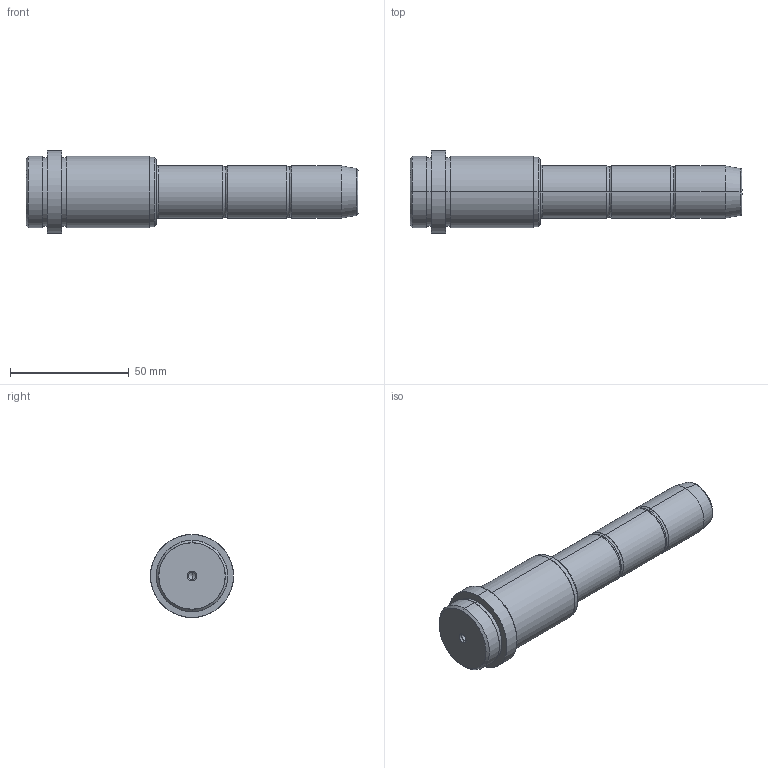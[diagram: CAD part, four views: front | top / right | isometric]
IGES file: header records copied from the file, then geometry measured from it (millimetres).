
Start section: SolidWorks IGES FILE using analytic representation for surfaces
Global section: file name: D:\zzzzz\Delta\D03\22\D03 - 22x46x85.IGS; native system: SolidWorks 2004 by SolidWorks Corporation; preprocessor: Version 5.3; author: Hkn; date: 080327.170424; units: millimetre
Bounding box: 140 x 35 x 35 mm (x, y, z)
Surface area: 13075.5 mm2 (no closed solid volume)
Topology: 0 solids, 0 shells, 56 faces, 1056 edges, 1052 vertices
Faces by surface type: revolution 36, bspline 20
